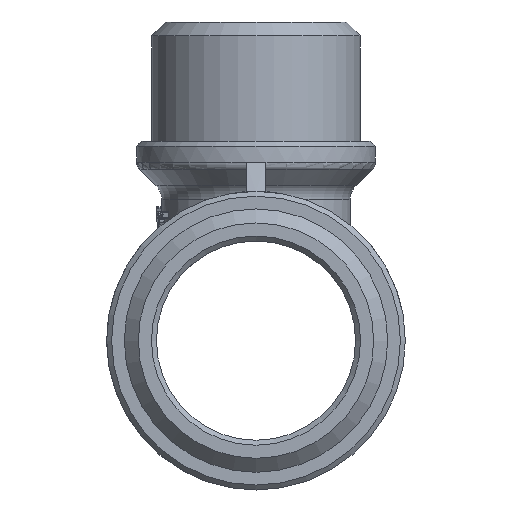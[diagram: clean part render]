
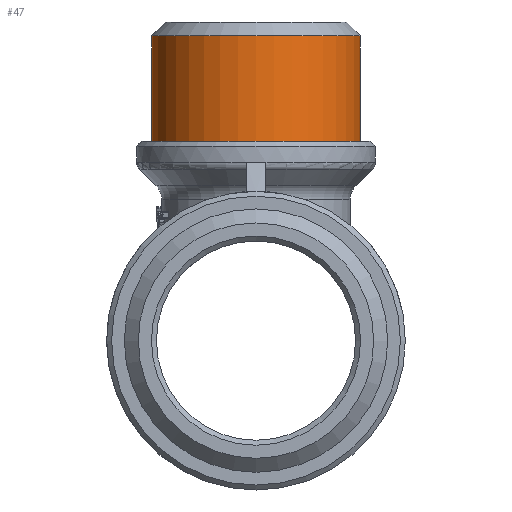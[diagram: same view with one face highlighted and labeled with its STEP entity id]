
A CAD part, front view. The second image highlights one B-rep face of the part: STEP entity #47.
In plain terms, the highlighted cylindrical face has radius 10.477 mm (diameter 20.955 mm), a full revolution.
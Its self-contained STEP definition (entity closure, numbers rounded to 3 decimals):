
#47=ADVANCED_FACE('',(#439,#441),#443,.T.);
#439=FACE_OUTER_BOUND('',#440,.T.);
#440=EDGE_LOOP('',(#2867));
#441=FACE_OUTER_BOUND('',#442,.T.);
#442=EDGE_LOOP('',(#2868));
#443=CYLINDRICAL_SURFACE('',#444,10.478);
#444=AXIS2_PLACEMENT_3D('',#445,#446,#447);
#445=CARTESIAN_POINT('',(0.,0.,20.));
#446=DIRECTION('',(0.,0.,1.));
#447=DIRECTION('',(0.,1.,0.));
#2867=ORIENTED_EDGE('',*,*,#5450,.F.);
#2868=ORIENTED_EDGE('',*,*,#5451,.F.);
#5450=EDGE_CURVE('',#6454,#6454,#6455,.T.);
#5451=EDGE_CURVE('',#6456,#6456,#6457,.F.);
#6454=VERTEX_POINT('',#8278);
#6455=CIRCLE('',#8279,10.478);
#6456=VERTEX_POINT('',#8283);
#6457=CIRCLE('',#8284,10.478);
#8278=CARTESIAN_POINT('',(0.,10.478,30.6));
#8279=AXIS2_PLACEMENT_3D('',#8280,#8281,#8282);
#8280=CARTESIAN_POINT('',(0.,0.,30.6));
#8281=DIRECTION('',(0.,0.,1.));
#8282=DIRECTION('',(0.,1.,0.));
#8283=CARTESIAN_POINT('',(0.,10.478,20.));
#8284=AXIS2_PLACEMENT_3D('',#8285,#8286,#8287);
#8285=CARTESIAN_POINT('',(0.,0.,20.));
#8286=DIRECTION('',(0.,0.,1.));
#8287=DIRECTION('',(0.,1.,0.));
